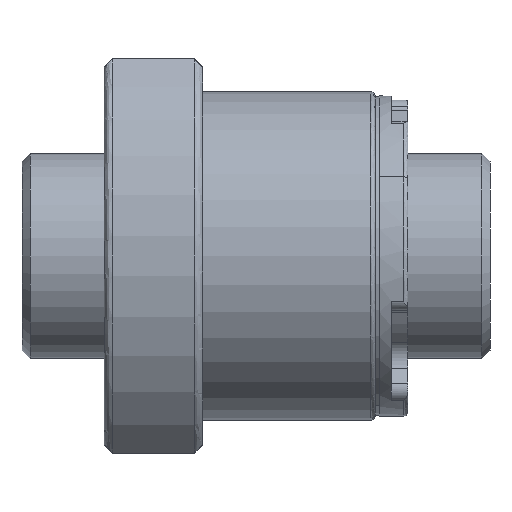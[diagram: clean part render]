
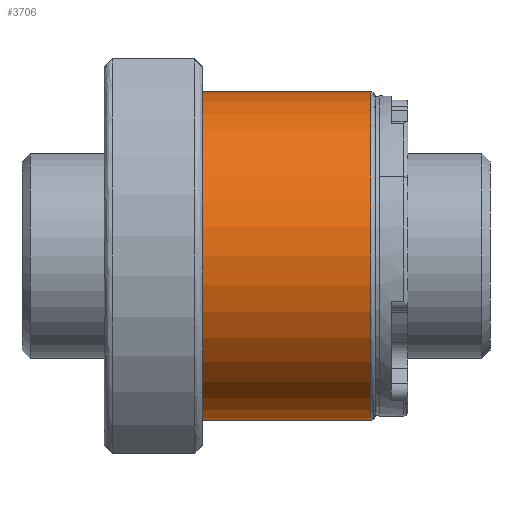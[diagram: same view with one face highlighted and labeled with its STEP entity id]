
A CAD part, front view. The second image highlights one B-rep face of the part: STEP entity #3706.
In plain terms, the highlighted cylindrical face has radius 20 mm (diameter 40 mm), a partial arc.
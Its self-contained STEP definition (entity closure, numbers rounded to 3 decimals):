
#88 = EDGE_CURVE ( 'NONE', #8132, #6828, #8456, .T. ) ;
#157 = ORIENTED_EDGE ( 'NONE', *, *, #609, .T. ) ;
#603 = CYLINDRICAL_SURFACE ( 'NONE', #1756, 20. ) ;
#609 = EDGE_CURVE ( 'NONE', #4878, #8132, #4242, .T. ) ;
#780 = VERTEX_POINT ( 'NONE', #3684 ) ;
#1062 = ORIENTED_EDGE ( 'NONE', *, *, #88, .T. ) ;
#1140 = DIRECTION ( 'NONE',  ( -1., 0., 0. ) ) ;
#1240 = FACE_OUTER_BOUND ( 'NONE', #2942, .T. ) ;
#1254 = CARTESIAN_POINT ( 'NONE',  ( 0., 0., 0. ) ) ;
#1756 = AXIS2_PLACEMENT_3D ( 'NONE', #1254, #1140, #5921 ) ;
#1827 = CARTESIAN_POINT ( 'NONE',  ( 32.5, 0., -20. ) ) ;
#1915 = CARTESIAN_POINT ( 'NONE',  ( 32.5, 0., 0. ) ) ;
#1968 = ORIENTED_EDGE ( 'NONE', *, *, #3097, .F. ) ;
#2103 = AXIS2_PLACEMENT_3D ( 'NONE', #7110, #3021, #3077 ) ;
#2329 = DIRECTION ( 'NONE',  ( -1., 0., 0. ) ) ;
#2419 = VECTOR ( 'NONE', #2329, 1000. ) ;
#2875 = ORIENTED_EDGE ( 'NONE', *, *, #7604, .T. ) ;
#2909 = AXIS2_PLACEMENT_3D ( 'NONE', #1915, #8774, #6012 ) ;
#2942 = EDGE_LOOP ( 'NONE', ( #1968, #157, #1062, #2875 ) ) ;
#3021 = DIRECTION ( 'NONE',  ( 1., 0., 0. ) ) ;
#3077 = DIRECTION ( 'NONE',  ( 0., 0., 1. ) ) ;
#3097 = EDGE_CURVE ( 'NONE', #4878, #780, #5002, .T. ) ;
#3151 = CARTESIAN_POINT ( 'NONE',  ( 0., 0., 20. ) ) ;
#3566 = CIRCLE ( 'NONE', #2103, 20. ) ;
#3597 = VECTOR ( 'NONE', #6641, 1000. ) ;
#3681 = CARTESIAN_POINT ( 'NONE',  ( 32.5, 0., 20. ) ) ;
#3684 = CARTESIAN_POINT ( 'NONE',  ( 12., 0., -20. ) ) ;
#3706 = ADVANCED_FACE ( 'NONE', ( #1240 ), #603, .T. ) ;
#4013 = CARTESIAN_POINT ( 'NONE',  ( 12., 0., 20. ) ) ;
#4242 = CIRCLE ( 'NONE', #2909, 20. ) ;
#4878 = VERTEX_POINT ( 'NONE', #1827 ) ;
#5002 = LINE ( 'NONE', #8472, #2419 ) ;
#5921 = DIRECTION ( 'NONE',  ( 0., 0., 1. ) ) ;
#6012 = DIRECTION ( 'NONE',  ( 0., 0., 1. ) ) ;
#6641 = DIRECTION ( 'NONE',  ( -1., 0., 0. ) ) ;
#6828 = VERTEX_POINT ( 'NONE', #4013 ) ;
#7110 = CARTESIAN_POINT ( 'NONE',  ( 12., 0., 0. ) ) ;
#7604 = EDGE_CURVE ( 'NONE', #6828, #780, #3566, .T. ) ;
#8132 = VERTEX_POINT ( 'NONE', #3681 ) ;
#8456 = LINE ( 'NONE', #3151, #3597 ) ;
#8472 = CARTESIAN_POINT ( 'NONE',  ( 0., 0., -20. ) ) ;
#8774 = DIRECTION ( 'NONE',  ( -1., 0., 0. ) ) ;
